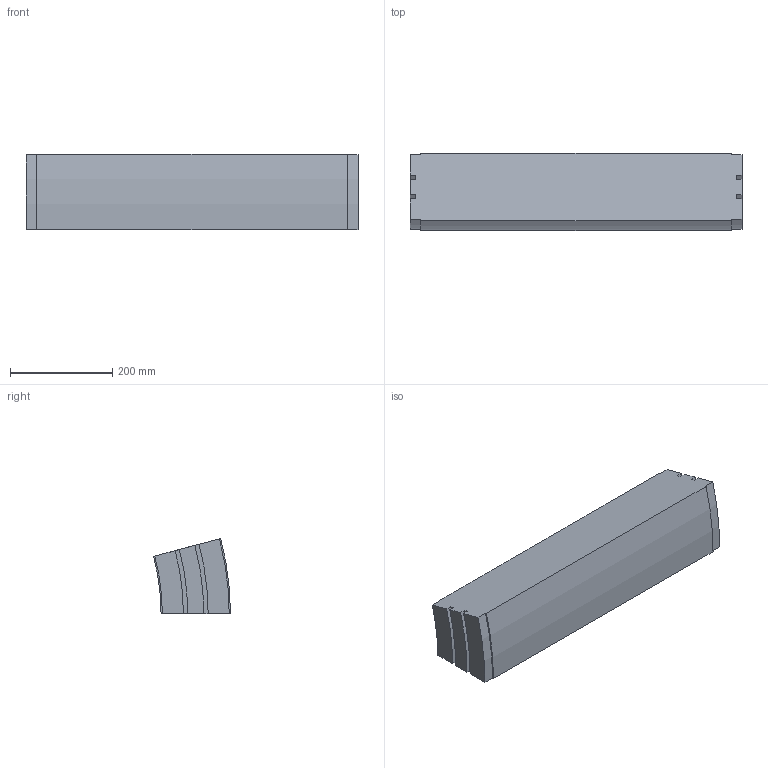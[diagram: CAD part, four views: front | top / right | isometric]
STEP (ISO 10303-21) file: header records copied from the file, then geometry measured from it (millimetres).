
FILE_DESCRIPTION (( 'STEP AP214' ), '1' );
FILE_NAME ('02.150V15.650.N FS-650-MTC-150 Bocht verticaal 15°.STEP', '2013-03-29T13:22:28', ( 'Gebruiker' ), ( '' ), 'SwSTEP 2.0', 'SolidWorks 2012', '' );
FILE_SCHEMA (( 'AUTOMOTIVE_DESIGN' ));
Length unit declared in the file: millimetre
Products named in the file (1): 02.150V15.650.N FS-650-MTC-150 Bocht verticaal 15°
Bounding box: 650.5 x 150.72 x 147.01 mm (x, y, z)
Volume: 11503988.7 mm3; surface area: 393192.4 mm2
Topology: 1 solids, 1 shells, 30 faces, 84 edges, 56 vertices
Faces by surface type: plane 16, cylinder 14
Entity records: 1010 total; most frequent: DIRECTION 174, CARTESIAN_POINT 171, ORIENTED_EDGE 168, EDGE_CURVE 84, AXIS2_PLACEMENT_3D 59, LINE 56, VECTOR 56, VERTEX_POINT 56
